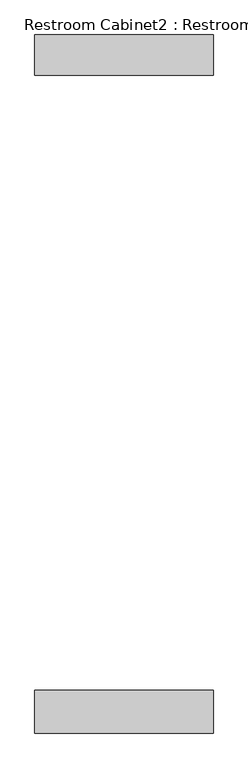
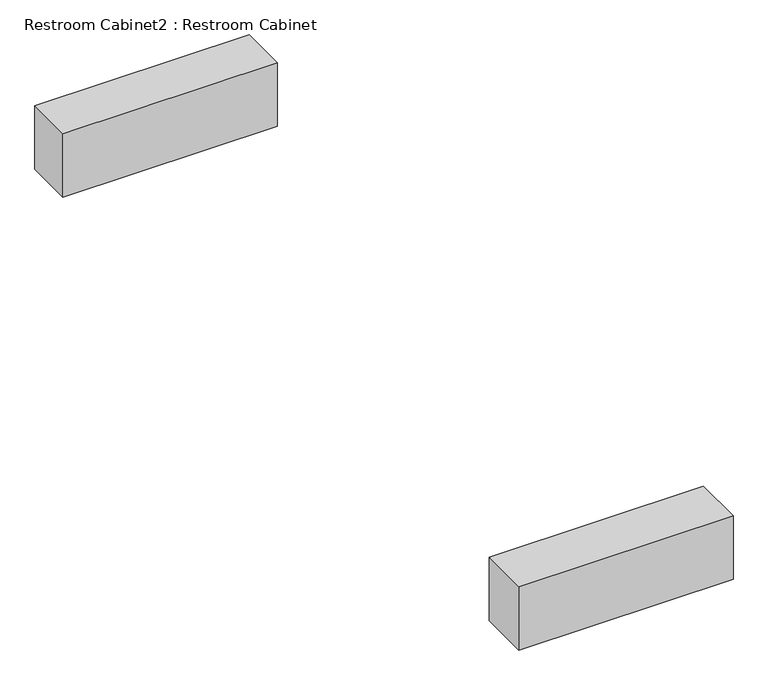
"""IFC4 building model written with IfcOpenShell, lengths in millimetres: furniture geometry, Restroom Cabinet2 : Restroom Cabinet."""

from ifc_helpers import new_model, si_unit, origin, origin_with_axes, place, context, project, spatial, polyline, outline, extrude, source, transform, mapped, element, save


def restroom_cabinet2_restroom_cabinet_0fb46be3(model_context):
    return source(origin(), model_context, "Body", "SweptSolid", [
        extrude(outline(polyline([(10269.3177208, 4293.3677004), (10269.3177208, 3594.8677004), (7348.3177208, 3594.8677004), (7348.3177208, 4293.3677004), (10269.3177208, 4293.3677004)])), origin_with_axes(), (0.0, 0.0, 1.0), 914.4),
        extrude(outline(polyline([(7348.3177208, 14351.7677004), (7348.3177208, 15012.1677004), (10269.3177208, 15012.1677004), (10269.3177208, 14351.7677004), (7348.3177208, 14351.7677004)])), origin_with_axes(), (0.0, 0.0, 1.0), 914.4),
    ])


if __name__ == "__main__":
    model = new_model("IFC4")
    model_context = context("Model", 3, world=origin())
    ifc_project = project(units=[si_unit("LENGTHUNIT", "METRE", prefix="MILLI")], contexts=[model_context])
    site = spatial("IfcSite", under=ifc_project)
    building = spatial("IfcBuilding", under=site)
    placement = place(None, origin())
    restroom_cabinet2_restroom_cabinet_shape = restroom_cabinet2_restroom_cabinet_0fb46be3(model_context)
    element("IfcFurniture", 1, ObjectType="Restroom Cabinet2 : Restroom Cabinet", at=placement, inside=building, context=model_context, shape_type="MappedRepresentation", body=[
        mapped(restroom_cabinet2_restroom_cabinet_shape, transform((0.0, 0.0, 0.0), x_axis=(1.0, 0.0, 0.0), y_axis=(0.0, 1.0, 0.0), z_axis=(0.0, 0.0, 1.0))),
    ])
    save(model, "model.ifc")
